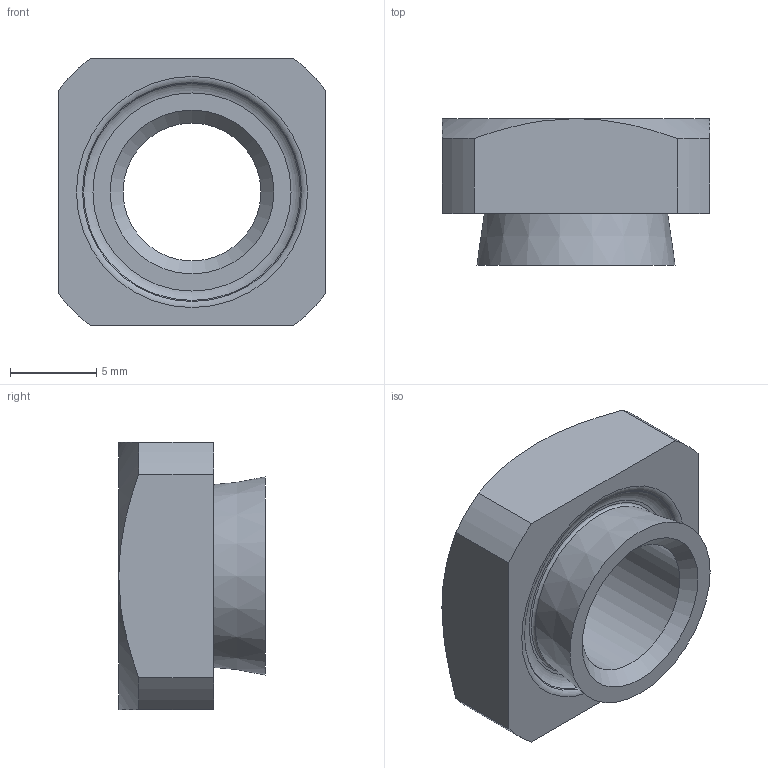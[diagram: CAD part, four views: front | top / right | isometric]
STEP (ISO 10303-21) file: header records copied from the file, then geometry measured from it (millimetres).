
FILE_DESCRIPTION(/* description */ (''),/* implementation_level */ '2;1');
FILE_NAME(/* name */ 'D:\Sukhmani\Fastit\HN Nut\HN 8-3.5.stp',/* time_stamp */ '2024-03-14T12:23:03+06:00',/* author */ ('edc.sukhmani'),/* organization */ (''),/* preprocessor_version */ 'ST-DEVELOPER v18.1',/* originating_system */ 'Autodesk Inventor 2022',/* authorisation */ '');
FILE_SCHEMA (('AUTOMOTIVE_DESIGN { 1 0 10303 214 3 1 1 }'));
Length unit declared in the file: millimetre
Products named in the file (1): HN 8-3.5
Bounding box: 15.52 x 8.5 x 15.52 mm (x, y, z)
Volume: 1093.6 mm3; surface area: 998.9 mm2
Topology: 1 solids, 1 shells, 25 faces, 58 edges, 37 vertices
Faces by surface type: cone 8, plane 8, cylinder 6, torus 3
Full cylindrical faces by diameter (mm): 8 x1, 9.5 x1
Entity records: 763 total; most frequent: CARTESIAN_POINT 137, DIRECTION 134, ORIENTED_EDGE 116, EDGE_CURVE 58, AXIS2_PLACEMENT_3D 58, VERTEX_POINT 37, CIRCLE 32, EDGE_LOOP 29
